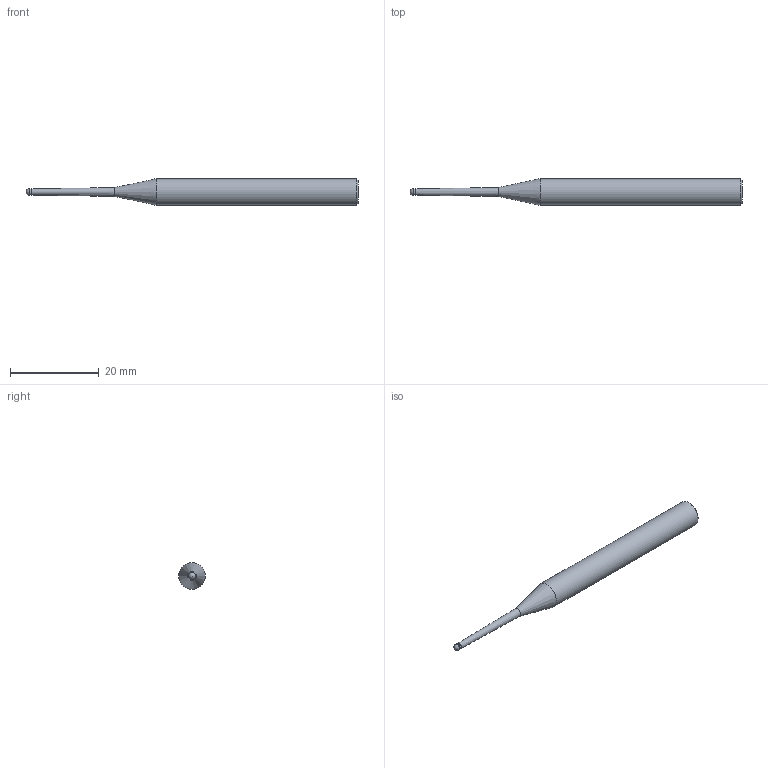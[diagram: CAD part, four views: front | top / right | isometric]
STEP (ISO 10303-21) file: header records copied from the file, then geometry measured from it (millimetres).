
FILE_DESCRIPTION(/* description */ (''),/* implementation_level */ '2;1');
FILE_NAME(/* name */ 'HGXPB2015-20-T0.9 0675.stp',/* time_stamp */ '2026-01-22T09:01:31+08:00',/* author */ (''),/* organization */ (''),/* preprocessor_version */ 'ST-DEVELOPER v16',/* originating_system */ 'SIEMENS PLM Software NX 10.0',/* authorisation */ '');
FILE_SCHEMA (('CONFIG_CONTROL_DESIGN'));
Length unit declared in the file: millimetre
Products named in the file (1): HGXPB2015-20-T0.9 0675_x_t
Bounding box: 75 x 6 x 6 mm (x, y, z)
Volume: 1461.9 mm3; surface area: 1112.1 mm2
Topology: 1 solids, 1 shells, 9 faces, 17 edges, 10 vertices
Faces by surface type: cylinder 3, cone 3, plane 2, sphere 1
Full cylindrical faces by diameter (mm): 1.42 x1, 1.5 x1, 6 x1
Entity records: 258 total; most frequent: DIRECTION 36, CARTESIAN_POINT 26, AXIS2_PLACEMENT_3D 18, EDGE_LOOP 16, ORIENTED_EDGE 16, FACE_BOUND 14, ADVANCED_FACE 9, VERTEX_POINT 8
